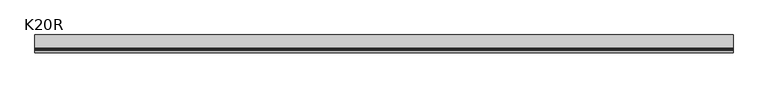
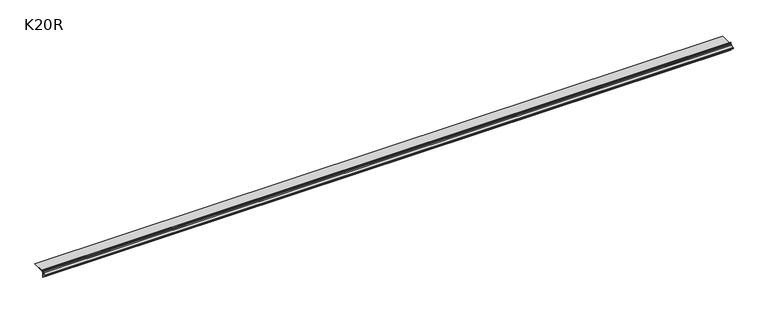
"""IFC4 building model written with IfcOpenShell, lengths in millimetres: proxy geometry, K20R Profil okapowy prosty z rynną : K20R."""

from ifc_helpers import new_model, si_unit, frame, origin, place, context, project, spatial, polyline, circle_curve, source, transform, mapped, element, save
from ifc_brep_helpers import plane_surface, cylinder_surface, revolved_surface, advanced_brep


def k20r_cabac76b(model_context):
    return source(origin(), model_context, "Body", "AdvancedBrep", [
        advanced_brep(
        [(220.0, -4.0000007, -8.2869169), (220.0, -4.0000007, -4.0987801), (220.0, 0.0, 0.0), (220.0, 0.0, -1.6007811), (220.0, -2.3999996, -4.1001397), (220.0, -2.3999996, -9.6198913), (220.0, 87.2999988, -9.6198913), (220.0, 87.2999988, -11.9198912), (220.0, 4.7999993, -11.9198912), (220.0, 4.7999993, -16.6198916), (220.0, 3.6000013, -16.6198916), (220.0, 3.6000013, -11.9198912), (220.0, -1.3999986, -11.9198912), (220.0, -1.3999986, -50.494891), (220.0, -2.8999983, -51.9948908), (220.0, -2.8999983, -11.9198912), (220.0, -3.9703269, -11.9198912), (220.0, -13.5823481, -12.255551), (220.0, -14.4327213, -12.5566837), (220.0, -26.3036302, -21.502055), (220.0, -27.1, -23.0993261), (220.0, -27.1, -27.0198916), (220.0, -28.8, -27.0198916), (220.0, -28.8, -22.750319), (220.0, -27.6054451, -20.3544125), (220.0, -15.4054451, -11.1610531), (220.0, -13.7033457, -10.5587402), (220.0, -5.930201, -10.2872957), (4779.8581812, -4.0000007, -8.2869169), (4779.8581812, -5.930201, -10.2872957), (4779.8581812, -13.7033457, -10.5587402), (4779.8581812, -15.4054451, -11.1610531), (4779.8581812, -27.605445, -20.3544126), (4779.8581812, -28.8, -22.750319), (4779.8581812, -28.8, -27.0198916), (4779.8581812, -27.1, -27.0198916), (4779.8581812, -27.1, -23.0993261), (4779.8581812, -26.3036301, -21.5020551), (4779.8581812, -14.4327214, -12.5566836), (4779.8581812, -13.5823481, -12.2555508), (4779.8581812, -3.9703269, -11.9198912), (4779.8581812, -2.8999983, -11.9198912), (4779.8581812, -2.8999983, -51.9948908), (4779.8581812, -1.3999986, -50.494891), (4779.8581812, -1.3999986, -11.9198912), (4779.8581812, 3.6000013, -11.9198912), (4779.8581812, 3.6000013, -16.6198916), (4779.8581812, 4.7999993, -16.6198916), (4779.8581812, 4.7999993, -11.9198912), (4779.8581812, 87.2999988, -11.9198912), (4779.8581812, 87.2999988, -9.6198913), (4779.8581812, -2.3999996, -9.6198913), (4779.8581812, -2.3999996, -4.1001397), (4779.8581812, 0.0, -1.6007811), (4779.8581812, 0.0, 0.0), (4779.8581812, -4.0, -4.0987803)],
        [
            (0, 1),
            (1, 2, circle_curve(frame((220.0, 0.1, -4.0987803), z_axis=(-1.0, 0.0, 0.0), x_axis=(0.0, 1.0, 0.0)), 4.1)),
            (2, 3),
            (3, 4, circle_curve(frame((220.0, 0.1, -4.0987803), z_axis=(1.0, 0.0, 0.0), x_axis=(0.0, 1.0, 0.0)), 2.5)),
            (4, 5),
            (5, 6),
            (6, 7),
            (7, 8),
            (8, 9),
            (9, 10),
            (10, 11),
            (11, 12),
            (12, 13),
            (13, 14),
            (14, 15),
            (15, 16),
            (16, 17),
            (17, 18, circle_curve(frame((220.0, -13.5299988, -13.754637), z_axis=(1.0, 0.0, 0.0), x_axis=(0.0, 1.0, 0.0)), 1.5)),
            (18, 19),
            (19, 20, circle_curve(frame((220.0, -25.1, -23.0993261), z_axis=(1.0, 0.0, 0.0), x_axis=(0.0, 1.0, 0.0)), 2.0)),
            (20, 21),
            (21, 22, circle_curve(frame((220.0, -27.95, -27.0198916), z_axis=(-1.0, 0.0, 0.0), x_axis=(0.0, 1.0, 0.0)), 0.85)),
            (22, 23),
            (23, 24, circle_curve(frame((220.0, -25.8, -22.750319), z_axis=(-1.0, 0.0, 0.0), x_axis=(0.0, 1.0, 0.0)), 3.0)),
            (24, 25),
            (25, 26, circle_curve(frame((220.0, -13.6, -13.5569596), z_axis=(-1.0, 0.0, 0.0), x_axis=(0.0, 1.0, 0.0)), 3.0)),
            (26, 27),
            (27, 0, circle_curve(frame((220.0, -6.0, -8.288514), z_axis=(1.0, 0.0, 0.0), x_axis=(0.0, 1.0, 0.0)), 2.0)),
            (28, 29, circle_curve(frame((4779.8581812, -6.0, -8.288514), z_axis=(-1.0, 0.0, 0.0), x_axis=(0.0, 1.0, 0.0)), 2.0)),
            (29, 30),
            (30, 31, circle_curve(frame((4779.8581812, -13.6, -13.5569596), z_axis=(1.0, 0.0, 0.0), x_axis=(0.0, 1.0, 0.0)), 3.0)),
            (31, 32),
            (32, 33, circle_curve(frame((4779.8581812, -25.8, -22.750319), z_axis=(1.0, 0.0, 0.0), x_axis=(0.0, 1.0, 0.0)), 3.0)),
            (33, 34),
            (34, 35, circle_curve(frame((4779.8581812, -27.95, -27.0198916), z_axis=(1.0, 0.0, 0.0), x_axis=(0.0, 1.0, 0.0)), 0.85)),
            (35, 36),
            (36, 37, circle_curve(frame((4779.8581812, -25.1, -23.0993261), z_axis=(-1.0, 0.0, 0.0), x_axis=(0.0, 1.0, 0.0)), 2.0)),
            (37, 38),
            (38, 39, circle_curve(frame((4779.8581812, -13.5299988, -13.754637), z_axis=(-1.0, 0.0, 0.0), x_axis=(0.0, 1.0, 0.0)), 1.5)),
            (39, 40),
            (40, 41),
            (41, 42),
            (42, 43),
            (43, 44),
            (44, 45),
            (45, 46),
            (46, 47),
            (47, 48),
            (48, 49),
            (49, 50),
            (50, 51),
            (51, 52),
            (52, 53, circle_curve(frame((4779.8581812, 0.1, -4.0987803), z_axis=(-1.0, 0.0, 0.0), x_axis=(0.0, 1.0, 0.0)), 2.5)),
            (53, 54),
            (54, 55, circle_curve(frame((4779.8581812, 0.1, -4.0987803), z_axis=(1.0, 0.0, 0.0), x_axis=(0.0, 1.0, 0.0)), 4.1)),
            (55, 28),
            (0, 28),
            (55, 1),
            (54, 2),
            (53, 3),
            (52, 4),
            (51, 5),
            (50, 6),
            (49, 7),
            (48, 8),
            (47, 9),
            (46, 10),
            (45, 11),
            (44, 12),
            (43, 13),
            (42, 14),
            (41, 15),
            (40, 16),
            (39, 17),
            (38, 18),
            (37, 19),
            (36, 20),
            (35, 21),
            (34, 22),
            (33, 23),
            (32, 24),
            (31, 25),
            (30, 26),
            (29, 27),
        ],
        [
            plane_surface(frame((220.0, 0.0, 0.0), z_axis=(-1.0, 0.0, 0.0), x_axis=(0.0, 0.0, 1.0))),
            plane_surface(frame((4779.8581812, 0.0, 0.0), z_axis=(1.0, 0.0, 0.0), x_axis=(0.0, 0.0, 1.0))),
            plane_surface(frame((220.0, -4.0000007, -8.2869169), z_axis=(0.0, -1.0, 0.0), x_axis=(1.0, 0.0, 0.0))),
            cylinder_surface(frame((220.0, 0.1, -4.0987803), z_axis=(-1.0, 0.0, 0.0), x_axis=(0.0, 1.0, 0.0)), 4.1),
            plane_surface(frame((220.0, 0.0, 0.0), z_axis=(0.0, 1.0, 0.0), x_axis=(1.0, 0.0, 0.0))),
            revolved_surface(polyline([(4779.8581812, 2.6, -4.0987803), (220.0, 2.6, -4.0987803)]), (220.0, 0.1, -4.0987803), (1.0, 0.0, 0.0)),
            plane_surface(frame((220.0, -2.3999996, -4.1001397), z_axis=(0.0, 1.0, 0.0), x_axis=(1.0, 0.0, 0.0))),
            plane_surface(frame((220.0, -2.3999996, -9.6198913), z_axis=(0.0, 0.0, 1.0), x_axis=(1.0, 0.0, 0.0))),
            plane_surface(frame((220.0, 87.2999988, -9.6198913), z_axis=(0.0, 1.0, 0.0), x_axis=(1.0, 0.0, 0.0))),
            plane_surface(frame((220.0, 87.2999988, -11.9198912), z_axis=(0.0, 0.0, -1.0), x_axis=(1.0, 0.0, 0.0))),
            plane_surface(frame((220.0, 4.7999993, -11.9198912), z_axis=(0.0, 1.0, 0.0), x_axis=(1.0, 0.0, 0.0))),
            plane_surface(frame((220.0, 4.7999993, -16.6198916), z_axis=(0.0, 0.0, -1.0), x_axis=(1.0, 0.0, 0.0))),
            plane_surface(frame((220.0, 3.6000013, -16.6198916), z_axis=(0.0, -1.0, 0.0), x_axis=(1.0, 0.0, 0.0))),
            plane_surface(frame((220.0, 3.6000013, -11.9198912), z_axis=(0.0, 0.0, -1.0), x_axis=(1.0, 0.0, 0.0))),
            plane_surface(frame((220.0, -1.3999986, -11.9198912), z_axis=(0.0, 1.0, 0.0), x_axis=(1.0, 0.0, 0.0))),
            plane_surface(frame((220.0, -1.3999986, -50.494891), z_axis=(0.0, 0.7071067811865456, -0.7071067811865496), x_axis=(1.0, 0.0, 0.0))),
            plane_surface(frame((220.0, -2.8999983, -51.9948908), z_axis=(0.0, -1.0, 0.0), x_axis=(1.0, 0.0, 0.0))),
            plane_surface(frame((220.0, -2.8999983, -11.9198912), z_axis=(0.0, 0.0, -1.0), x_axis=(1.0, 0.0, 0.0))),
            plane_surface(frame((220.0, -3.9703269, -11.9198912), z_axis=(0.0, 0.034899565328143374, -0.9993908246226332), x_axis=(1.0, 0.0, 0.0))),
            revolved_surface(polyline([(4779.8581812, -12.0299988, -13.754637), (220.0, -12.0299988, -13.754637)]), (220.0, -13.5299988, -13.754637), (1.0, 0.0, 0.0)),
            plane_surface(frame((220.0, -14.4327214, -12.5566836), z_axis=(0.0, 0.6018150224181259, -0.7986355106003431), x_axis=(1.0, 0.0, 0.0))),
            revolved_surface(polyline([(4779.8581812, -23.1, -23.0993261), (220.0, -23.1, -23.0993261)]), (220.0, -25.1, -23.0993261), (1.0, 0.0, 0.0)),
            plane_surface(frame((220.0, -27.1, -23.0993261), z_axis=(0.0, 1.0, 0.0), x_axis=(1.0, 0.0, 0.0))),
            cylinder_surface(frame((220.0, -27.95, -27.0198916), z_axis=(-1.0, 0.0, 0.0), x_axis=(0.0, 1.0, 0.0)), 0.85),
            plane_surface(frame((220.0, -28.8, -27.0198916), z_axis=(0.0, -1.0, 0.0), x_axis=(1.0, 0.0, 0.0))),
            cylinder_surface(frame((220.0, -25.8, -22.750319), z_axis=(-1.0, 0.0, 0.0), x_axis=(0.0, 1.0, 0.0)), 3.0),
            plane_surface(frame((220.0, -27.605445, -20.3544126), z_axis=(0.0, -0.6018150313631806, 0.7986355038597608), x_axis=(1.0, 0.0, 0.0))),
            cylinder_surface(frame((220.0, -13.6, -13.5569596), z_axis=(-1.0, 0.0, 0.0), x_axis=(0.0, 1.0, 0.0)), 3.0),
            plane_surface(frame((220.0, -13.7033457, -10.5587402), z_axis=(0.0, -0.03489952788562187, 0.9993908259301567), x_axis=(1.0, 0.0, 0.0))),
            revolved_surface(polyline([(4779.8581812, -4.0, -8.288514), (220.0, -4.0, -8.288514)]), (220.0, -6.0, -8.288514), (1.0, 0.0, 0.0)),
        ],
        [
            (0, [[1, 2, 3, 4, 5, 6, 7, 8, 9, 10, 11, 12, 13, 14, 15, 16, 17, 18, 19, 20, 21, 22, 23, 24, 25, 26, 27, 28]]),
            (1, [[29, 30, 31, 32, 33, 34, 35, 36, 37, 38, 39, 40, 41, 42, 43, 44, 45, 46, 47, 48, 49, 50, 51, 52, 53, 54, 55, 56]]),
            (2, [[-1, 57, -56, 58]]),
            (3, [[-2, -58, -55, 59]]),
            (4, [[-3, -59, -54, 60]]),
            (5, [[-4, -60, -53, 61]]),
            (6, [[-5, -61, -52, 62]]),
            (7, [[-6, -62, -51, 63]]),
            (8, [[-7, -63, -50, 64]]),
            (9, [[-8, -64, -49, 65]]),
            (10, [[-9, -65, -48, 66]]),
            (11, [[-10, -66, -47, 67]]),
            (12, [[-11, -67, -46, 68]]),
            (13, [[-12, -68, -45, 69]]),
            (14, [[-13, -69, -44, 70]]),
            (15, [[-14, -70, -43, 71]]),
            (16, [[-15, -71, -42, 72]]),
            (17, [[-16, -72, -41, 73]]),
            (18, [[-17, -73, -40, 74]]),
            (19, [[-18, -74, -39, 75]]),
            (20, [[-19, -75, -38, 76]]),
            (21, [[-20, -76, -37, 77]]),
            (22, [[-21, -77, -36, 78]]),
            (23, [[-22, -78, -35, 79]]),
            (24, [[-23, -79, -34, 80]]),
            (25, [[-24, -80, -33, 81]]),
            (26, [[-25, -81, -32, 82]]),
            (27, [[-26, -82, -31, 83]]),
            (28, [[-27, -83, -30, 84]]),
            (29, [[-28, -84, -29, -57]]),
        ],
    ),
    ])


if __name__ == "__main__":
    model = new_model("IFC4")
    model_context = context("Model", 3, world=origin())
    ifc_project = project(units=[si_unit("LENGTHUNIT", "METRE", prefix="MILLI")], contexts=[model_context])
    site = spatial("IfcSite", under=ifc_project)
    building = spatial("IfcBuilding", under=site)
    placement = place(None, origin())
    k20r_shape = k20r_cabac76b(model_context)
    element("IfcBuildingElementProxy", 1, Name="K20R Profil okapowy prosty z rynną : K20R", ObjectType="K20R Profil okapowy prosty z rynną : K20R", at=placement, inside=building, context=model_context, shape_type="MappedRepresentation", body=[
        mapped(k20r_shape, transform((0.0, 0.0, 0.0), x_axis=(1.0, 0.0, 0.0), y_axis=(0.0, 1.0, 0.0), z_axis=(0.0, 0.0, 1.0))),
    ])
    save(model, "model.ifc")
